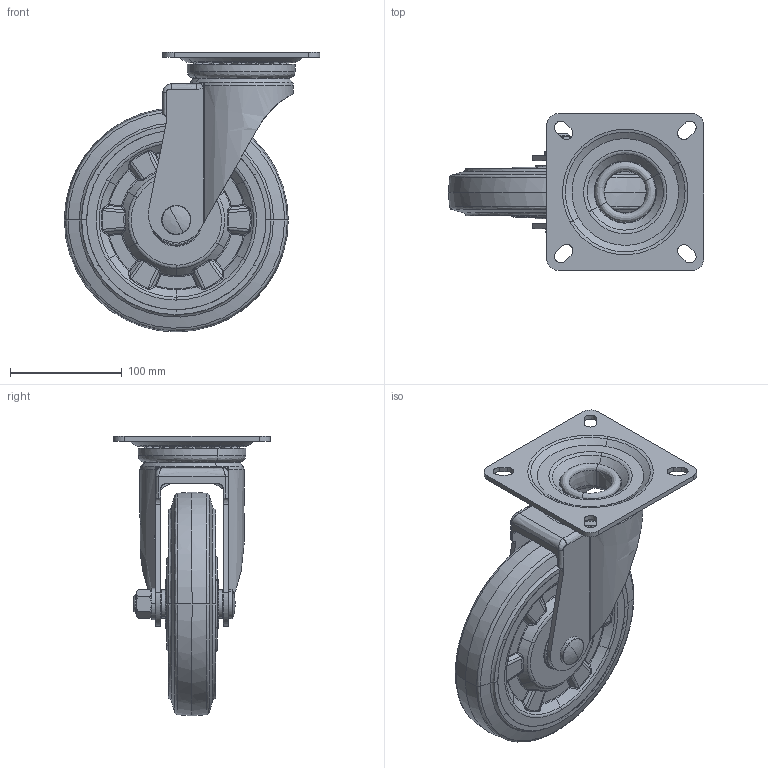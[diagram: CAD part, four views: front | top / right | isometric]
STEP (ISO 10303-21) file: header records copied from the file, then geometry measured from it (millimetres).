
FILE_DESCRIPTION (( 'STEP AP214' ), '1' );
FILE_NAME ('GR-200WJ.STEP', '2022-08-24T22:44:09', ( '' ), ( '' ), 'SwSTEP 2.0', 'SolidWorks 2010', '' );
FILE_SCHEMA (( 'AUTOMOTIVE_DESIGN' ));
Length unit declared in the file: millimetre
Products named in the file (12): GR-200WJ-10; GR-200WJ-15; GR-200WJ-20; GR-200WJ-25; GR-200WJ-30; GR-200WJ-35; GR-200WJ-40; GR-200WJ-45; GR-200WJ-50; GR-200WJ-55; GR-200WJ-60; GR-200WJ
Assembly tree (11 placements, depth 2):
  GR-200WJ
    GR-200WJ-15
    GR-200WJ-25
    GR-200WJ-45
    GR-200WJ-30
    GR-200WJ-10
    GR-200WJ-40
    GR-200WJ-55
    GR-200WJ-20
    GR-200WJ-60
    GR-200WJ-35
    GR-200WJ-50
Bounding box: 228 x 140 x 250 mm (x, y, z)
Volume: 761659 mm3; surface area: 413057.8 mm2
Topology: 58 solids, 58 shells, 1454 faces, 5315 edges, 3770 vertices
Faces by surface type: bspline 1260, plane 194
Entity records: 290549 total; most frequent: CARTESIAN_POINT 257035, ORIENTED_EDGE 10152, EDGE_CURVE 5076, B_SPLINE_CURVE_WITH_KNOTS 4643, VERTEX_POINT 3770, EDGE_LOOP 1532, ADVANCED_FACE 1454, FACE_OUTER_BOUND 1454
